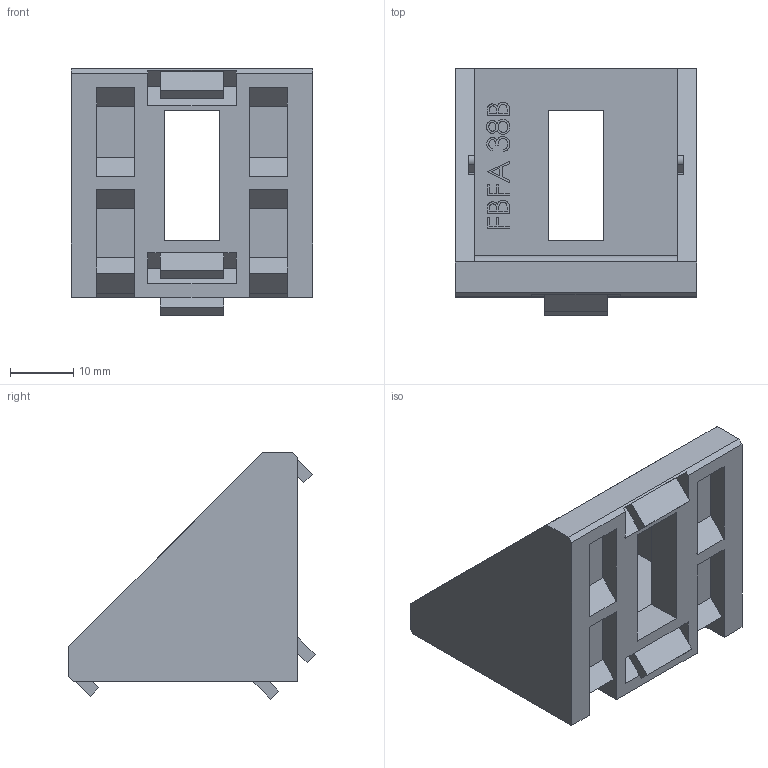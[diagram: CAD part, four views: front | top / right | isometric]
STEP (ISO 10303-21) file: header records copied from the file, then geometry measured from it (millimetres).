
FILE_DESCRIPTION (( 'STEP AP214' ), '1' );
FILE_NAME ('FBFA-38B.STEP', '2011-04-12T09:19:01', ( '.' ), ( '' ), 'SwSTEP 2.0', 'SolidWorks 2010', '' );
FILE_SCHEMA (( 'AUTOMOTIVE_DESIGN' ));
Length unit declared in the file: millimetre
Products named in the file (1): FBFA-38B
Bounding box: 38 x 38.83 x 38.83 mm (x, y, z)
Volume: 12873.8 mm3; surface area: 9095.7 mm2
Topology: 1 solids, 1 shells, 226 faces, 598 edges, 396 vertices
Faces by surface type: plane 168, bspline 49, cylinder 9
Entity records: 10806 total; most frequent: CARTESIAN_POINT 4174, ORIENTED_EDGE 1196, DIRECTION 874, EDGE_CURVE 598, VECTOR 482, LINE 482, VERTEX_POINT 396, EDGE_LOOP 252
